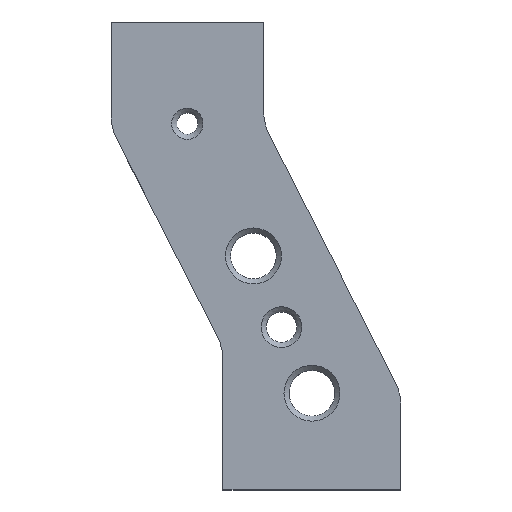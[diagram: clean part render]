
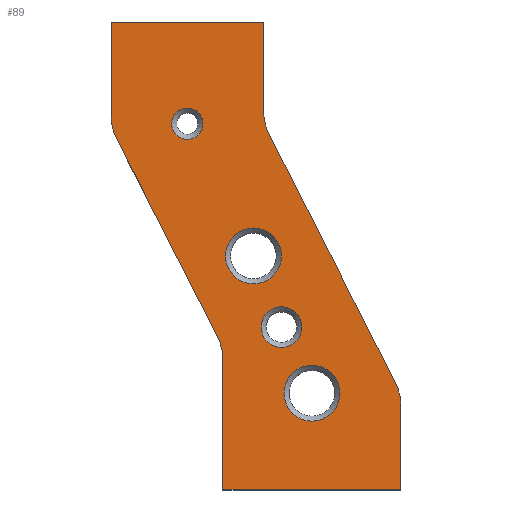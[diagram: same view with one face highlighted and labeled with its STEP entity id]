
A CAD part, top view. The second image highlights one B-rep face of the part: STEP entity #89.
In plain terms, the highlighted planar face has unit normal (0, 0, 1).
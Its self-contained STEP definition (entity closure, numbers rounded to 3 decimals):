
#89=ADVANCED_FACE('',(#381,#383,#385,#387,#389),#391,.T.);
#381=FACE_BOUND('',#382,.T.);
#382=EDGE_LOOP('',(#644,#645,#646,#647,#648,#649,#650,#651,#652,#653,#654,#655));
#383=FACE_BOUND('',#384,.T.);
#384=EDGE_LOOP('',(#656));
#385=FACE_BOUND('',#386,.T.);
#386=EDGE_LOOP('',(#657));
#387=FACE_BOUND('',#388,.T.);
#388=EDGE_LOOP('',(#658));
#389=FACE_BOUND('',#390,.T.);
#390=EDGE_LOOP('',(#659));
#391=PLANE('',#392);
#392=AXIS2_PLACEMENT_3D('',#393,#394,#395);
#393=CARTESIAN_POINT('',(0.,0.,16.));
#394=DIRECTION('',(0.,0.,1.));
#395=DIRECTION('',(-1.,0.,0.));
#644=ORIENTED_EDGE('',*,*,#756,.T.);
#645=ORIENTED_EDGE('',*,*,#757,.T.);
#646=ORIENTED_EDGE('',*,*,#758,.T.);
#647=ORIENTED_EDGE('',*,*,#759,.T.);
#648=ORIENTED_EDGE('',*,*,#760,.T.);
#649=ORIENTED_EDGE('',*,*,#761,.T.);
#650=ORIENTED_EDGE('',*,*,#735,.T.);
#651=ORIENTED_EDGE('',*,*,#755,.T.);
#652=ORIENTED_EDGE('',*,*,#762,.T.);
#653=ORIENTED_EDGE('',*,*,#763,.T.);
#654=ORIENTED_EDGE('',*,*,#764,.T.);
#655=ORIENTED_EDGE('',*,*,#765,.T.);
#656=ORIENTED_EDGE('',*,*,#766,.T.);
#657=ORIENTED_EDGE('',*,*,#767,.T.);
#658=ORIENTED_EDGE('',*,*,#768,.T.);
#659=ORIENTED_EDGE('',*,*,#769,.T.);
#735=EDGE_CURVE('',#796,#794,#797,.T.);
#755=EDGE_CURVE('',#794,#832,#834,.T.);
#756=EDGE_CURVE('',#835,#836,#837,.T.);
#757=EDGE_CURVE('',#836,#838,#839,.T.);
#758=EDGE_CURVE('',#838,#840,#841,.T.);
#759=EDGE_CURVE('',#840,#842,#843,.T.);
#760=EDGE_CURVE('',#842,#844,#845,.T.);
#761=EDGE_CURVE('',#844,#796,#846,.T.);
#762=EDGE_CURVE('',#832,#847,#848,.T.);
#763=EDGE_CURVE('',#847,#849,#850,.T.);
#764=EDGE_CURVE('',#849,#851,#852,.T.);
#765=EDGE_CURVE('',#851,#835,#853,.T.);
#766=EDGE_CURVE('',#854,#854,#855,.F.);
#767=EDGE_CURVE('',#856,#856,#857,.F.);
#768=EDGE_CURVE('',#858,#858,#859,.F.);
#769=EDGE_CURVE('',#860,#860,#861,.F.);
#794=VERTEX_POINT('',#900);
#796=VERTEX_POINT('',#904);
#797=LINE('',#905,#906);
#832=VERTEX_POINT('',#988);
#834=LINE('',#992,#993);
#835=VERTEX_POINT('',#995);
#836=VERTEX_POINT('',#996);
#837=LINE('',#997,#998);
#838=VERTEX_POINT('',#1000);
#839=LINE('',#1001,#1002);
#840=VERTEX_POINT('',#1004);
#841=CIRCLE('',#1005,10.);
#842=VERTEX_POINT('',#1009);
#843=LINE('',#1010,#1011);
#844=VERTEX_POINT('',#1013);
#845=CIRCLE('',#1014,10.);
#846=LINE('',#1018,#1019);
#847=VERTEX_POINT('',#1021);
#848=CIRCLE('',#1022,10.);
#849=VERTEX_POINT('',#1026);
#850=LINE('',#1027,#1028);
#851=VERTEX_POINT('',#1030);
#852=CIRCLE('',#1031,10.);
#853=LINE('',#1035,#1036);
#854=VERTEX_POINT('',#1038);
#855=CIRCLE('',#1039,4.);
#856=VERTEX_POINT('',#1043);
#857=CIRCLE('',#1044,5.5);
#858=VERTEX_POINT('',#1048);
#859=CIRCLE('',#1049,3.067);
#860=VERTEX_POINT('',#1053);
#861=CIRCLE('',#1054,5.5);
#900=CARTESIAN_POINT('',(-22.,90.,16.));
#904=CARTESIAN_POINT('',(8.,90.,16.));
#905=CARTESIAN_POINT('',(8.,90.,16.));
#906=VECTOR('',#907,1.);
#907=DIRECTION('',(-1.,0.,0.));
#988=CARTESIAN_POINT('',(-22.,71.578,16.));
#992=CARTESIAN_POINT('',(-22.,90.,16.));
#993=VECTOR('',#994,1.);
#994=DIRECTION('',(0.,-1.,0.));
#995=CARTESIAN_POINT('',(0.,-2.,16.));
#996=CARTESIAN_POINT('',(35.,-2.,16.));
#997=CARTESIAN_POINT('',(0.,-2.,16.));
#998=VECTOR('',#999,1.);
#999=DIRECTION('',(1.,0.,0.));
#1000=CARTESIAN_POINT('',(35.,14.609,16.));
#1001=CARTESIAN_POINT('',(35.,-2.,16.));
#1002=VECTOR('',#1003,1.);
#1003=DIRECTION('',(0.,1.,0.));
#1004=CARTESIAN_POINT('',(33.91,19.149,16.));
#1005=AXIS2_PLACEMENT_3D('',#1006,#1007,#1008);
#1006=CARTESIAN_POINT('',(25.,14.609,16.));
#1007=DIRECTION('',(0.,0.,1.));
#1008=DIRECTION('',(1.,0.,0.));
#1009=CARTESIAN_POINT('',(9.09,67.861,16.));
#1010=CARTESIAN_POINT('',(33.91,19.149,16.));
#1011=VECTOR('',#1012,1.);
#1012=DIRECTION('',(-0.454,0.891,0.));
#1013=CARTESIAN_POINT('',(8.,72.401,16.));
#1014=AXIS2_PLACEMENT_3D('',#1015,#1016,#1017);
#1015=CARTESIAN_POINT('',(18.,72.401,16.));
#1016=DIRECTION('',(0.,0.,-1.));
#1017=DIRECTION('',(-0.891,-0.454,0.));
#1018=CARTESIAN_POINT('',(8.,72.401,16.));
#1019=VECTOR('',#1020,1.);
#1020=DIRECTION('',(0.,1.,0.));
#1021=CARTESIAN_POINT('',(-20.91,67.038,16.));
#1022=AXIS2_PLACEMENT_3D('',#1023,#1024,#1025);
#1023=CARTESIAN_POINT('',(-12.,71.578,16.));
#1024=DIRECTION('',(0.,0.,1.));
#1025=DIRECTION('',(-1.,0.,0.));
#1026=CARTESIAN_POINT('',(-1.09,28.139,16.));
#1027=CARTESIAN_POINT('',(-20.91,67.038,16.));
#1028=VECTOR('',#1029,1.);
#1029=DIRECTION('',(0.454,-0.891,0.));
#1030=CARTESIAN_POINT('',(0.,23.599,16.));
#1031=AXIS2_PLACEMENT_3D('',#1032,#1033,#1034);
#1032=CARTESIAN_POINT('',(-10.,23.599,16.));
#1033=DIRECTION('',(0.,0.,-1.));
#1034=DIRECTION('',(0.891,0.454,0.));
#1035=CARTESIAN_POINT('',(0.,23.599,16.));
#1036=VECTOR('',#1037,1.);
#1037=DIRECTION('',(0.,-1.,0.));
#1038=CARTESIAN_POINT('',(7.5,30.,16.));
#1039=AXIS2_PLACEMENT_3D('',#1040,#1041,#1042);
#1040=CARTESIAN_POINT('',(11.5,30.,16.));
#1041=DIRECTION('',(0.,0.,1.));
#1042=DIRECTION('',(-1.,0.,0.));
#1043=CARTESIAN_POINT('',(12.,17.,16.));
#1044=AXIS2_PLACEMENT_3D('',#1045,#1046,#1047);
#1045=CARTESIAN_POINT('',(17.5,17.,16.));
#1046=DIRECTION('',(0.,0.,1.));
#1047=DIRECTION('',(-1.,0.,0.));
#1048=CARTESIAN_POINT('',(-10.067,70.,16.));
#1049=AXIS2_PLACEMENT_3D('',#1050,#1051,#1052);
#1050=CARTESIAN_POINT('',(-7.,70.,16.));
#1051=DIRECTION('',(0.,0.,1.));
#1052=DIRECTION('',(-1.,0.,0.));
#1053=CARTESIAN_POINT('',(0.5,44.,16.));
#1054=AXIS2_PLACEMENT_3D('',#1055,#1056,#1057);
#1055=CARTESIAN_POINT('',(6.,44.,16.));
#1056=DIRECTION('',(0.,0.,1.));
#1057=DIRECTION('',(-1.,0.,0.));
